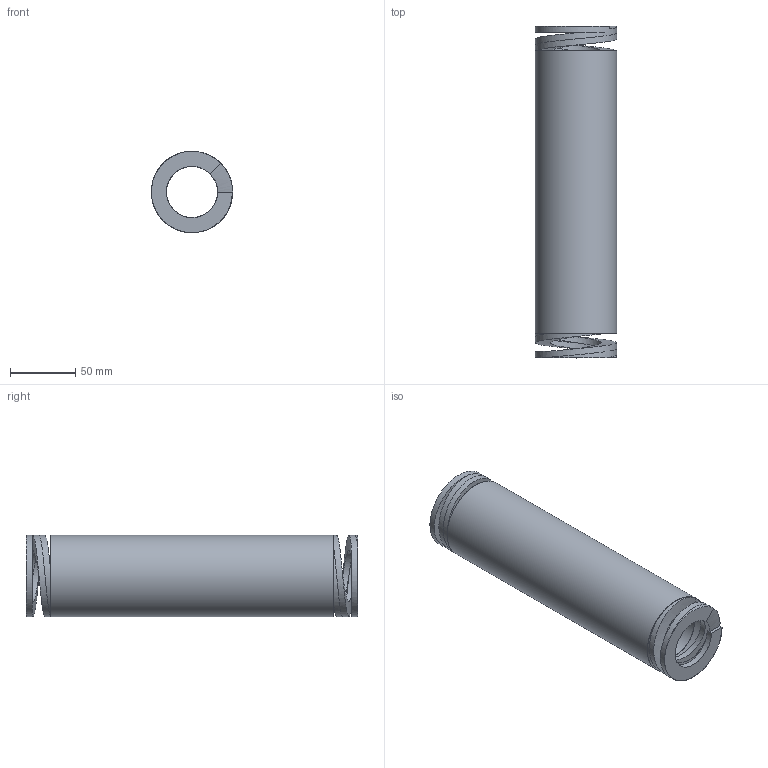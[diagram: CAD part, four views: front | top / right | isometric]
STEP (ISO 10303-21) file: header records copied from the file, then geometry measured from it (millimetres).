
FILE_DESCRIPTION(/* description */ ('Max 37,5% | 95.3 | 7468'),/* implementation_level */ '2;1');
FILE_NAME(/* name */ '2S63252.step',/* time_stamp */ '2026-10-07T11:35:58+02:00',/* author */ ('2S'),/* organization */ ('11,5x9,3 prostokatny'),/* preprocessor_version */ 'ST-DEVELOPER v20.1',/* originating_system */ 'Autodesk Inventor 2026',/* authorisation */ '78.4');
FILE_SCHEMA (('AUTOMOTIVE_DESIGN { 1 0 10303 214 3 1 1 }'));
Length unit declared in the file: millimetre
Products named in the file (1): 2S63252
Bounding box: 62.2 x 254 x 62.21 mm (x, y, z)
Volume: 439314.8 mm3; surface area: 89311.1 mm2
Topology: 1 solids, 1 shells, 22 faces, 60 edges, 38 vertices
Faces by surface type: bspline 14, plane 6, cylinder 2
Full cylindrical faces by diameter (mm): 39.199 x1, 62.201 x1
Entity records: 3296 total; most frequent: CARTESIAN_POINT 2820, ORIENTED_EDGE 120, EDGE_CURVE 60, B_SPLINE_CURVE_WITH_KNOTS 48, VERTEX_POINT 38, DIRECTION 34, EDGE_LOOP 26, FACE_OUTER_BOUND 22
